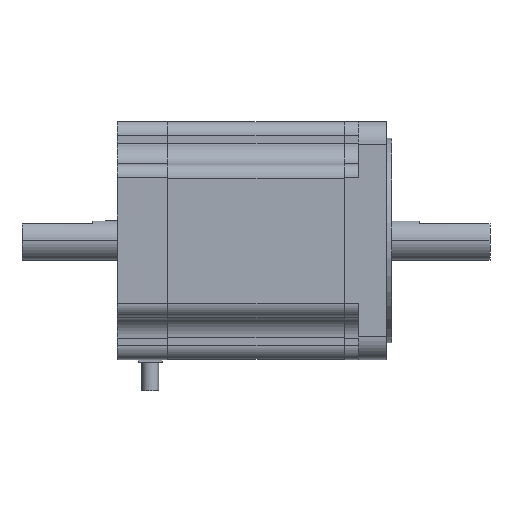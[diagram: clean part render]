
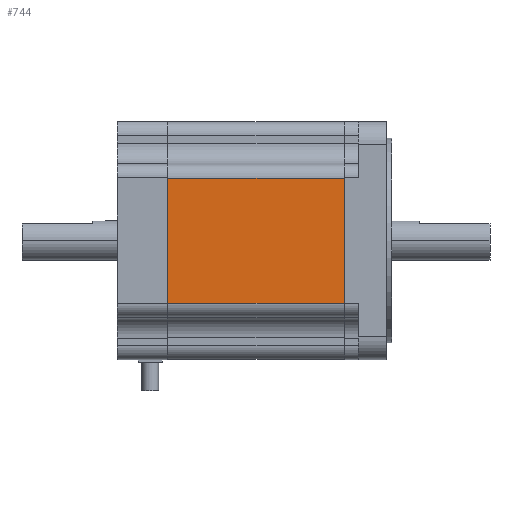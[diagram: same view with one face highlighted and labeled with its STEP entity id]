
A CAD part, front view. The second image highlights one B-rep face of the part: STEP entity #744.
In plain terms, the highlighted planar face has unit normal (0, -1, 0).
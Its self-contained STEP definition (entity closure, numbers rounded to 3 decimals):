
#456 = EDGE_CURVE ( 'NONE', #462, #460, #2152, .T. ) ;
#460 = VERTEX_POINT ( 'NONE', #2203 ) ;
#462 = VERTEX_POINT ( 'NONE', #2202 ) ;
#744 = ADVANCED_FACE ( 'NONE', ( #2602 ), #2600, .T. ) ;
#801 = VERTEX_POINT ( 'NONE', #2941 ) ;
#957 = EDGE_LOOP ( 'NONE', ( #958, #959, #1028, #970 ) ) ;
#958 = ORIENTED_EDGE ( 'NONE', *, *, #456, .T. ) ;
#959 = ORIENTED_EDGE ( 'NONE', *, *, #1026, .F. ) ;
#970 = ORIENTED_EDGE ( 'NONE', *, *, #979, .T. ) ;
#979 = EDGE_CURVE ( 'NONE', #801, #462, #3008, .T. ) ;
#1026 = EDGE_CURVE ( 'NONE', #1027, #460, #3164, .T. ) ;
#1027 = VERTEX_POINT ( 'NONE', #3160 ) ;
#1028 = ORIENTED_EDGE ( 'NONE', *, *, #1029, .F. ) ;
#1029 = EDGE_CURVE ( 'NONE', #801, #1027, #3159, .T. ) ;
#2149 = DIRECTION ( 'NONE',  ( 0., 0., 1. ) ) ;
#2150 = VECTOR ( 'NONE', #2149, 1000. ) ;
#2151 = CARTESIAN_POINT ( 'NONE',  ( -17., -42.4, 0. ) ) ;
#2152 = LINE ( 'NONE', #2151, #2150 ) ;
#2202 = CARTESIAN_POINT ( 'NONE',  ( -17., -42.4, -22.278 ) ) ;
#2203 = CARTESIAN_POINT ( 'NONE',  ( -17., -42.4, 22.278 ) ) ;
#2596 = DIRECTION ( 'NONE',  ( 1., 0., 0. ) ) ;
#2597 = DIRECTION ( 'NONE',  ( 0., -1., 0. ) ) ;
#2598 = CARTESIAN_POINT ( 'NONE',  ( -686.3, -42.4, -626.734 ) ) ;
#2599 = AXIS2_PLACEMENT_3D ( 'NONE', #2598, #2597, #2596 ) ;
#2600 = PLANE ( 'NONE',  #2599 ) ;
#2602 = FACE_OUTER_BOUND ( 'NONE', #957, .T. ) ;
#2941 = CARTESIAN_POINT ( 'NONE',  ( -80., -42.4, -22.278 ) ) ;
#3005 = DIRECTION ( 'NONE',  ( 1., 0., 0. ) ) ;
#3006 = VECTOR ( 'NONE', #3005, 1000. ) ;
#3007 = CARTESIAN_POINT ( 'NONE',  ( -48.5, -42.4, -22.278 ) ) ;
#3008 = LINE ( 'NONE', #3007, #3006 ) ;
#3156 = DIRECTION ( 'NONE',  ( 0., 0., 1. ) ) ;
#3157 = VECTOR ( 'NONE', #3156, 1000. ) ;
#3158 = CARTESIAN_POINT ( 'NONE',  ( -80., -42.4, 0. ) ) ;
#3159 = LINE ( 'NONE', #3158, #3157 ) ;
#3160 = CARTESIAN_POINT ( 'NONE',  ( -80., -42.4, 22.278 ) ) ;
#3161 = DIRECTION ( 'NONE',  ( 1., 0., 0. ) ) ;
#3162 = VECTOR ( 'NONE', #3161, 1000. ) ;
#3163 = CARTESIAN_POINT ( 'NONE',  ( -48.5, -42.4, 22.278 ) ) ;
#3164 = LINE ( 'NONE', #3163, #3162 ) ;
